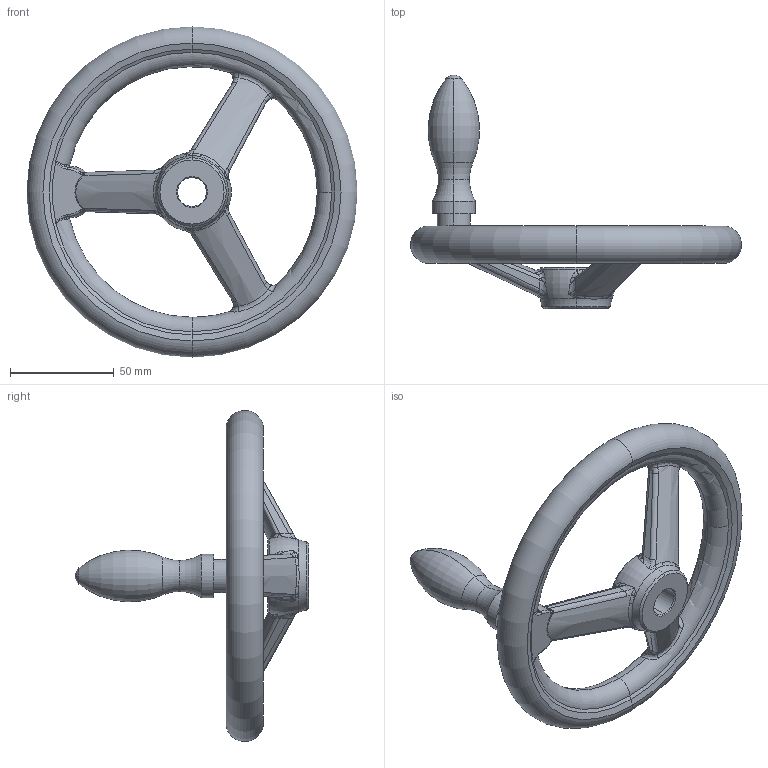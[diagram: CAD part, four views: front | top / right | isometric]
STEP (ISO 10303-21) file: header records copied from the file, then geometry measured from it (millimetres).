
FILE_DESCRIPTION (( 'STEP AP203' ), '1' );
FILE_NAME ('din950_d4_160x14.step', '2010-03-23T10:14:11', ( '_' ), ( '_' ), 'SwSTEP 2.0', 'SolidWorks 2010', '' );
FILE_SCHEMA (( 'CONFIG_CONTROL_DESIGN' ));
Length unit declared in the file: millimetre
Products named in the file (1): din950_d4_160x14
Bounding box: 159.93 x 113 x 159.93 mm (x, y, z)
Volume: 180982.2 mm3; surface area: 41319.9 mm2
Topology: 1 solids, 1 shells, 213 faces, 517 edges, 278 vertices
Faces by surface type: bspline 142, torus 30, cone 17, cylinder 11, plane 11, sphere 2
Entity records: 25687 total; most frequent: CARTESIAN_POINT 21627, ORIENTED_EDGE 986, DIRECTION 573, EDGE_CURVE 493, VERTEX_POINT 278, AXIS2_PLACEMENT_3D 273, B_SPLINE_CURVE_WITH_KNOTS 261, EDGE_LOOP 217
